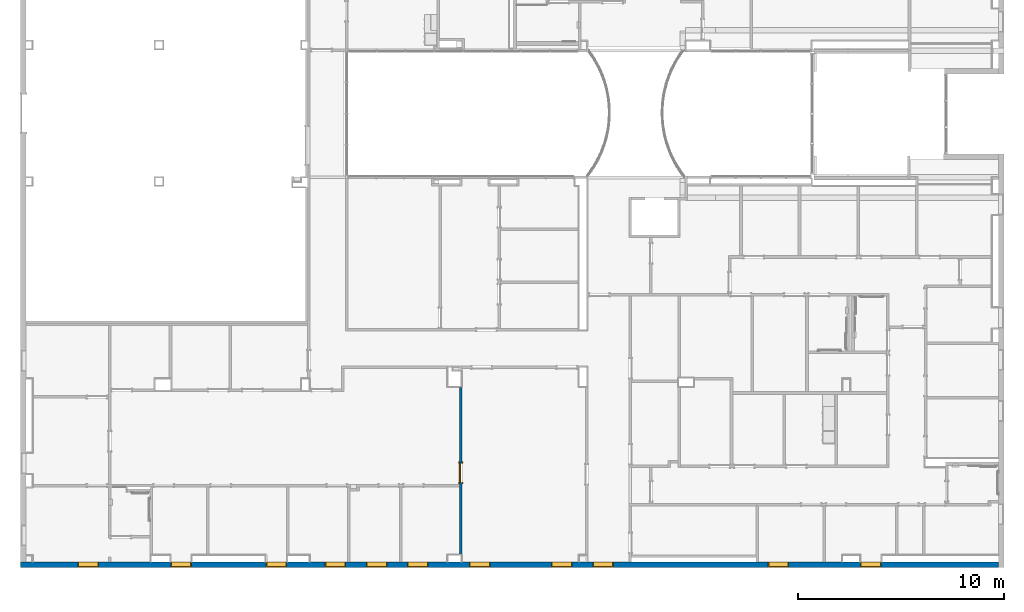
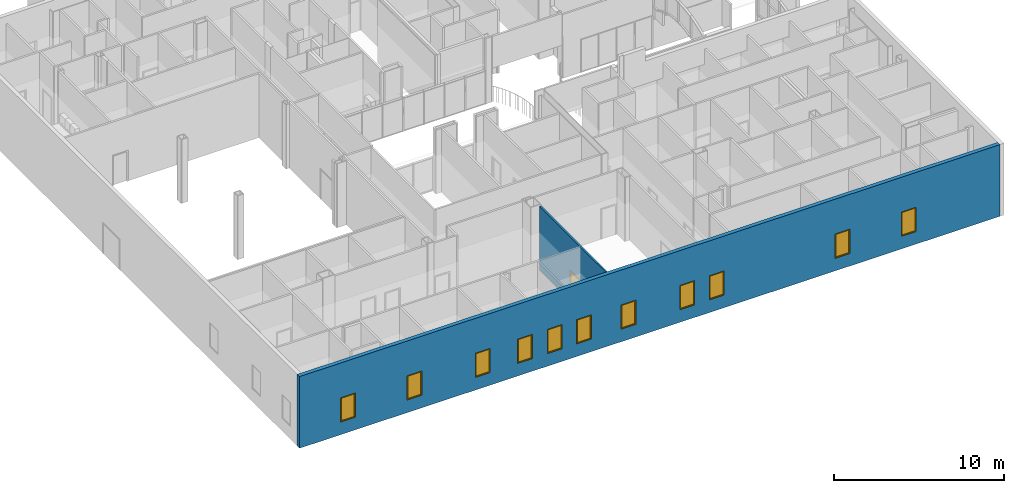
# One storey, part 8 of 47: 11 windows, 2 walls, 1 door, 12 openings.
"""IFC2X3 building model written with IfcOpenShell, lengths in metres."""

from ifc_helpers import new_model, entity, si_unit, converted_unit, frame, frame_2d, origin, origin_2d_with_axis, place, context, project, spatial, polyline, rectangle, outline, extrude, source, transform, mapped, material, layer, layer_set, layer_usage, type_object, type_shapes, element, fill, save


model = new_model("IFC2X3")

# Units and contexts
model_context = context("Model", 3, precision=1e-09, world=origin())
plan_context = context("Plan", 3, precision=1e-09, world=origin())
ifc_project = project(units=[si_unit("LENGTHUNIT", "METRE"), si_unit("AREAUNIT", "SQUARE_METRE"), si_unit("VOLUMEUNIT", "CUBIC_METRE"), converted_unit("PLANEANGLEUNIT", "DEGREE", entity("IfcRatioMeasure", 0.01745329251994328), si_unit("PLANEANGLEUNIT", "RADIAN"), dimensions=[0, 0, 0, 0, 0, 0, 0]), si_unit("TIMEUNIT", "SECOND")], contexts=[model_context, plan_context])

# Site, building, storey
site_placement = place(None, origin())
site = spatial("IfcSite", under=ifc_project, at=site_placement, Name="Default", CompositionType="ELEMENT")
building_placement = place(site_placement, origin())
building = spatial("IfcBuilding", under=site, at=building_placement, CompositionType="ELEMENT")
storey_placement = place(building_placement, frame((0.0, 0.0, 4.570000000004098)))
storey = spatial("IfcBuildingStorey", under=building, at=storey_placement, Name="Second Floor", CompositionType="ELEMENT", Elevation=4.570000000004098)

# Wall, openings, windows
ifc_material_1 = material(Name="Insulation - Insulated Panel")
ifc_layer_1 = layer(ifc_material_1, 0.042)
ifc_material_2 = material(Name="Metal - Firring")
ifc_layer_2 = layer(ifc_material_2, 0.038)
ifc_material_3 = material(Name="Wood - Sheathing - plywood")
ifc_layer_3 = layer(ifc_material_3, 0.019)
ifc_material_4 = material(Name="Metal - Stud Layer")
ifc_layer_4 = layer(ifc_material_4, 0.152)
ifc_material_5 = material(Name="Plasterboard")
ifc_layer_5 = layer(ifc_material_5, 0.016)
ifc_layer_set_1 = layer_set([ifc_layer_1, ifc_layer_2, ifc_layer_3, ifc_layer_4, ifc_layer_5], Name="Basic Wall:Exterior - Insul Panel on Mtl. Stud")
ifc_layer_usage_1 = layer_usage(ifc_layer_set_1, "AXIS2", "NEGATIVE", 0.1335)
wall_1_placement = place(storey_placement, frame((0.1129999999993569, 9.793499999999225, 0.0), z_axis=(0.0, 0.0, 1.0), x_axis=(-1.0, 0.0, 0.0)))
wall_1 = element("IfcWallStandardCase", 1, at=wall_1_placement, inside=storey, material=ifc_layer_usage_1, Name="Basic Wall:Exterior - Insul Panel on Mtl. Stud", ObjectType="Basic Wall:Exterior - Insul Panel on Mtl. Stud", context=model_context, shape_type="SweptSolid", body=[
    extrude(rectangle(XDim=47.493, YDim=0.2669999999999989, at=frame_2d((23.7465, 0.0), x_axis=(-1.0, 0.0))), origin(), (0.0, 0.0, 1.0), 5.136999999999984),
])
opening_1_placement = place(wall_1_placement, frame((5.698003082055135, -0.1335000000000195, 0.905)))
opening_1 = element("IfcOpeningElement", 2, at=opening_1_placement, cuts=wall_1, Name="M_Fixed:1735 x 1000mm:1735 x 1000mm:1", ObjectType="Opening", context=model_context, shape_type="SweptSolid", body=[
    extrude(rectangle(XDim=1.734999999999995, YDim=0.9999999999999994, at=frame_2d((0.8674999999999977, 0.5000000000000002), x_axis=(1.0, 0.0))), frame((0.0, 0.0, 0.0), z_axis=(0.0, 1.0, 0.0), x_axis=(0.0, 0.0, 1.0)), (0.0, 0.0, 1.0), 0.267),
])
opening_2_placement = place(wall_1_placement, frame((10.18900016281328, -0.1335000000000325, 0.905)))
opening_2 = element("IfcOpeningElement", 3, at=opening_2_placement, cuts=wall_1, Name="M_Fixed:1735 x 1000mm:1735 x 1000mm:1", ObjectType="Opening", context=model_context, shape_type="SweptSolid", body=[
    extrude(rectangle(XDim=1.734999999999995, YDim=0.9999999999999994, at=frame_2d((0.8674999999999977, 0.5000000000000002), x_axis=(1.0, 0.0))), frame((0.0, 0.0, 0.0), z_axis=(0.0, 1.0, 0.0), x_axis=(0.0, 0.0, 1.0)), (0.0, 0.0, 1.0), 0.267),
])
opening_3_placement = place(wall_1_placement, frame((18.70299999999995, -0.1335000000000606, 0.905)))
opening_3 = element("IfcOpeningElement", 4, at=opening_3_placement, cuts=wall_1, Name="M_Fixed:1735 x 1000mm:1735 x 1000mm:1", ObjectType="Opening", context=model_context, shape_type="SweptSolid", body=[
    extrude(rectangle(XDim=1.734999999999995, YDim=0.9999999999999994, at=frame_2d((0.8674999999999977, 0.5000000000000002), x_axis=(1.0, 0.0))), frame((0.0, 0.0, 0.0), z_axis=(0.0, 1.0, 0.0), x_axis=(0.0, 0.0, 1.0)), (0.0, 0.0, 1.0), 0.267),
])
opening_4_placement = place(wall_1_placement, frame((20.70699999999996, -0.1335000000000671, 0.905)))
opening_4 = element("IfcOpeningElement", 5, at=opening_4_placement, cuts=wall_1, Name="M_Fixed:1735 x 1000mm:1735 x 1000mm:1", ObjectType="Opening", context=model_context, shape_type="SweptSolid", body=[
    extrude(rectangle(XDim=1.734999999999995, YDim=0.9999999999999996, at=frame_2d((0.8674999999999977, 0.4999999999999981), x_axis=(1.0, 0.0))), frame((0.0, 0.0, 0.0), z_axis=(0.0, 1.0, 0.0), x_axis=(0.0, 0.0, 1.0)), (0.0, 0.0, 1.0), 0.267),
])
opening_5_placement = place(wall_1_placement, frame((24.69299999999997, -0.1335000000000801, 0.905)))
opening_5 = element("IfcOpeningElement", 6, at=opening_5_placement, cuts=wall_1, Name="M_Fixed:1735 x 1000mm:1735 x 1000mm:1", ObjectType="Opening", context=model_context, shape_type="SweptSolid", body=[
    extrude(rectangle(XDim=1.734999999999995, YDim=0.9999999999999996, at=frame_2d((0.8674999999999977, 0.4999999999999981), x_axis=(1.0, 0.0))), frame((0.0, 0.0, 0.0), z_axis=(0.0, 1.0, 0.0), x_axis=(0.0, 0.0, 1.0)), (0.0, 0.0, 1.0), 0.267),
])
opening_6_placement = place(wall_1_placement, frame((27.70799999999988, -0.133500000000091, 0.905)))
opening_6 = element("IfcOpeningElement", 7, at=opening_6_placement, cuts=wall_1, Name="M_Fixed:1735 x 1000mm:1735 x 1000mm:1", ObjectType="Opening", context=model_context, shape_type="SweptSolid", body=[
    extrude(rectangle(XDim=1.734999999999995, YDim=0.9999999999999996, at=frame_2d((0.8674999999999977, 0.4999999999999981), x_axis=(1.0, 0.0))), frame((0.0, 0.0, 0.0), z_axis=(0.0, 1.0, 0.0), x_axis=(0.0, 0.0, 1.0)), (0.0, 0.0, 1.0), 0.267),
])
opening_7_placement = place(wall_1_placement, frame((29.69199999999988, -0.1335000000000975, 0.905)))
opening_7 = element("IfcOpeningElement", 8, at=opening_7_placement, cuts=wall_1, Name="M_Fixed:1735 x 1000mm:1735 x 1000mm:1", ObjectType="Opening", context=model_context, shape_type="SweptSolid", body=[
    extrude(rectangle(XDim=1.734999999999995, YDim=0.9999999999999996, at=frame_2d((0.8674999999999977, 0.4999999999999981), x_axis=(1.0, 0.0))), frame((0.0, 0.0, 0.0), z_axis=(0.0, 1.0, 0.0), x_axis=(0.0, 0.0, 1.0)), (0.0, 0.0, 1.0), 0.267),
])
opening_8_placement = place(wall_1_placement, frame((31.70199999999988, -0.133500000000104, 0.905)))
opening_8 = element("IfcOpeningElement", 9, at=opening_8_placement, cuts=wall_1, Name="M_Fixed:1735 x 1000mm:1735 x 1000mm:1", ObjectType="Opening", context=model_context, shape_type="SweptSolid", body=[
    extrude(rectangle(XDim=1.734999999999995, YDim=0.9999999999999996, at=frame_2d((0.8674999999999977, 0.4999999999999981), x_axis=(1.0, 0.0))), frame((0.0, 0.0, 0.0), z_axis=(0.0, 1.0, 0.0), x_axis=(0.0, 0.0, 1.0)), (0.0, 0.0, 1.0), 0.267),
])
opening_9_placement = place(wall_1_placement, frame((34.56704823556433, -0.1335000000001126, 0.905)))
opening_9 = element("IfcOpeningElement", 10, at=opening_9_placement, cuts=wall_1, Name="M_Fixed:1735 x 1000mm:1735 x 1000mm:1", ObjectType="Opening", context=model_context, shape_type="SweptSolid", body=[
    extrude(rectangle(XDim=1.734999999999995, YDim=0.9999999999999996, at=frame_2d((0.8674999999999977, 0.4999999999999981), x_axis=(1.0, 0.0))), frame((0.0, 0.0, 0.0), z_axis=(0.0, 1.0, 0.0), x_axis=(0.0, 0.0, 1.0)), (0.0, 0.0, 1.0), 0.267),
])
opening_10_placement = place(wall_1_placement, frame((39.19630308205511, -0.1335000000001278, 0.905)))
opening_10 = element("IfcOpeningElement", 11, at=opening_10_placement, cuts=wall_1, Name="M_Fixed:1735 x 1000mm:1735 x 1000mm:1", ObjectType="Opening", context=model_context, shape_type="SweptSolid", body=[
    extrude(rectangle(XDim=1.734999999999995, YDim=0.9999999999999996, at=frame_2d((0.8674999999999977, 0.4999999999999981), x_axis=(1.0, 0.0))), frame((0.0, 0.0, 0.0), z_axis=(0.0, 1.0, 0.0), x_axis=(0.0, 0.0, 1.0)), (0.0, 0.0, 1.0), 0.267),
])
opening_11_placement = place(wall_1_placement, frame((43.70299999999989, -0.133500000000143, 0.905)))
opening_11 = element("IfcOpeningElement", 12, at=opening_11_placement, cuts=wall_1, Name="M_Fixed:1735 x 1000mm:1735 x 1000mm:1", ObjectType="Opening", context=model_context, shape_type="SweptSolid", body=[
    extrude(rectangle(XDim=1.734999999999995, YDim=0.9999999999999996, at=frame_2d((0.8674999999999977, 0.4999999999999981), x_axis=(1.0, 0.0))), frame((0.0, 0.0, 0.0), z_axis=(0.0, 1.0, 0.0), x_axis=(0.0, 0.0, 1.0)), (0.0, 0.0, 1.0), 0.267),
])
window_style = type_object("IfcWindowStyle", Name="1735 x 1000mm", ConstructionType="NOTDEFINED", OperationType="NOTDEFINED", ParameterTakesPrecedence=False, Sizeable=False)
shared_shape_1 = source(origin(), model_context, "Body", "SweptSolid", [
    extrude(rectangle(XDim=0.012, YDim=0.873999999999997, at=origin_2d_with_axis()), frame((0.5000000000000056, 0.2259999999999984, 0.06299999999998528), z_axis=(0.0, 0.0, 1.0), x_axis=(0.0, -1.0, 0.0)), (0.0, 0.0, 1.0), 1.609000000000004),
    extrude(outline(polyline([(-0.4809999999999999, -0.8485000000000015), (0.4809999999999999, -0.8485000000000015), (0.4809999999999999, 0.8485000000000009), (-0.4809999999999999, 0.8485000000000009), (-0.4809999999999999, -0.8485000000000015)]), holes=[polyline([(-0.4369999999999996, -0.8045000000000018), (-0.4369999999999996, 0.8045000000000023), (0.4369999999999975, 0.8045000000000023), (0.4369999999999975, -0.8045000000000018), (-0.4369999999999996, -0.8045000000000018)])]), frame((0.5000000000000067, 0.203999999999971, 0.8674999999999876), z_axis=(0.0, 1.0, 0.0), x_axis=(1.0, 0.0, 0.0)), (0.0, 0.0, 1.0), 0.04400000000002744),
    extrude(outline(polyline([(-0.4999999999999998, -0.8674999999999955), (0.4999999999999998, -0.8674999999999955), (0.4999999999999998, 0.8674999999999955), (-0.4999999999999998, 0.8674999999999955), (-0.4999999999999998, -0.8674999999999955)]), holes=[polyline([(-0.4810000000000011, -0.8484999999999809), (-0.4810000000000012, 0.8485000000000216), (0.4809999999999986, 0.8485000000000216), (0.4809999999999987, -0.8484999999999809), (-0.4810000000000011, -0.8484999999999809)])]), frame((0.500000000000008, 0.203999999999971, 0.8675000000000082), z_axis=(0.0, 1.0, 0.0), x_axis=(1.0, 0.0, 0.0)), (0.0, 0.0, 1.0), 0.06300000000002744),
    extrude(outline(polyline([(-0.5000000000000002, -0.867499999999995), (0.5000000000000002, -0.867499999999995), (0.5000000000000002, 0.867499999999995), (-0.5000000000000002, 0.867499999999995), (-0.5000000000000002, -0.867499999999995)]), holes=[polyline([(-0.4679999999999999, -0.8354999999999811), (-0.4679999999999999, 0.8355000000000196), (0.4680000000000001, 0.8355000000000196), (0.4680000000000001, -0.8354999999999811), (-0.4679999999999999, -0.8354999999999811)])]), frame((0.5000000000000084, 0.0, 0.8675000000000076), z_axis=(0.0, 1.0, 0.0), x_axis=(1.0, 0.0, 0.0)), (0.0, 0.0, 1.0), 0.2039999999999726),
])
type_shapes(window_style, [shared_shape_1])
window_1_placement = place(opening_1_placement, origin())
window_1 = element("IfcWindow", 13, at=window_1_placement, inside=storey, type_object=window_style, Name="M_Fixed:1735 x 1000mm:1735 x 1000mm", ObjectType="1735 x 1000mm", OverallHeight=1.734999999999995, OverallWidth=1.0, context=model_context, shape_type="MappedRepresentation", body=[
    mapped(shared_shape_1, transform((0.0, 0.0, 0.0), scale=1.0)),
])
fill(opening_1, window_1)
window_2_placement = place(opening_2_placement, origin())
window_2 = element("IfcWindow", 14, at=window_2_placement, inside=storey, type_object=window_style, Name="M_Fixed:1735 x 1000mm:1735 x 1000mm", ObjectType="1735 x 1000mm", OverallHeight=1.734999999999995, OverallWidth=1.0, context=model_context, shape_type="MappedRepresentation", body=[
    mapped(shared_shape_1, transform((0.0, 0.0, 0.0), scale=1.0)),
])
fill(opening_2, window_2)
window_3_placement = place(opening_3_placement, origin())
window_3 = element("IfcWindow", 15, at=window_3_placement, inside=storey, type_object=window_style, Name="M_Fixed:1735 x 1000mm:1735 x 1000mm", ObjectType="1735 x 1000mm", OverallHeight=1.734999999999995, OverallWidth=1.0, context=model_context, shape_type="MappedRepresentation", body=[
    mapped(shared_shape_1, transform((0.0, 0.0, 0.0), scale=1.0)),
])
fill(opening_3, window_3)
window_4_placement = place(opening_4_placement, origin())
window_4 = element("IfcWindow", 16, at=window_4_placement, inside=storey, type_object=window_style, Name="M_Fixed:1735 x 1000mm:1735 x 1000mm", ObjectType="1735 x 1000mm", OverallHeight=1.734999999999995, OverallWidth=0.9999999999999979, context=model_context, shape_type="MappedRepresentation", body=[
    mapped(shared_shape_1, transform((0.0, 0.0, 0.0), scale=1.0)),
])
fill(opening_4, window_4)
window_5_placement = place(opening_5_placement, origin())
window_5 = element("IfcWindow", 17, at=window_5_placement, inside=storey, type_object=window_style, Name="M_Fixed:1735 x 1000mm:1735 x 1000mm", ObjectType="1735 x 1000mm", OverallHeight=1.734999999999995, OverallWidth=0.9999999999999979, context=model_context, shape_type="MappedRepresentation", body=[
    mapped(shared_shape_1, transform((0.0, 0.0, 0.0), scale=1.0)),
])
fill(opening_5, window_5)
window_6_placement = place(opening_6_placement, origin())
window_6 = element("IfcWindow", 18, at=window_6_placement, inside=storey, type_object=window_style, Name="M_Fixed:1735 x 1000mm:1735 x 1000mm", ObjectType="1735 x 1000mm", OverallHeight=1.734999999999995, OverallWidth=0.9999999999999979, context=model_context, shape_type="MappedRepresentation", body=[
    mapped(shared_shape_1, transform((0.0, 0.0, 0.0), scale=1.0)),
])
fill(opening_6, window_6)
window_7_placement = place(opening_7_placement, origin())
window_7 = element("IfcWindow", 19, at=window_7_placement, inside=storey, type_object=window_style, Name="M_Fixed:1735 x 1000mm:1735 x 1000mm", ObjectType="1735 x 1000mm", OverallHeight=1.734999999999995, OverallWidth=0.9999999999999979, context=model_context, shape_type="MappedRepresentation", body=[
    mapped(shared_shape_1, transform((0.0, 0.0, 0.0), scale=1.0)),
])
fill(opening_7, window_7)
window_8_placement = place(opening_8_placement, origin())
window_8 = element("IfcWindow", 20, at=window_8_placement, inside=storey, type_object=window_style, Name="M_Fixed:1735 x 1000mm:1735 x 1000mm", ObjectType="1735 x 1000mm", OverallHeight=1.734999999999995, OverallWidth=0.9999999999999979, context=model_context, shape_type="MappedRepresentation", body=[
    mapped(shared_shape_1, transform((0.0, 0.0, 0.0), scale=1.0)),
])
fill(opening_8, window_8)
window_9_placement = place(opening_9_placement, origin())
window_9 = element("IfcWindow", 21, at=window_9_placement, inside=storey, type_object=window_style, Name="M_Fixed:1735 x 1000mm:1735 x 1000mm", ObjectType="1735 x 1000mm", OverallHeight=1.734999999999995, OverallWidth=0.9999999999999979, context=model_context, shape_type="MappedRepresentation", body=[
    mapped(shared_shape_1, transform((0.0, 0.0, 0.0), scale=1.0)),
])
fill(opening_9, window_9)
window_10_placement = place(opening_10_placement, origin())
window_10 = element("IfcWindow", 22, at=window_10_placement, inside=storey, type_object=window_style, Name="M_Fixed:1735 x 1000mm:1735 x 1000mm", ObjectType="1735 x 1000mm", OverallHeight=1.734999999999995, OverallWidth=0.9999999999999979, context=model_context, shape_type="MappedRepresentation", body=[
    mapped(shared_shape_1, transform((0.0, 0.0, 0.0), scale=1.0)),
])
fill(opening_10, window_10)
window_11_placement = place(opening_11_placement, origin())
window_11 = element("IfcWindow", 23, at=window_11_placement, inside=storey, type_object=window_style, Name="M_Fixed:1735 x 1000mm:1735 x 1000mm", ObjectType="1735 x 1000mm", OverallHeight=1.734999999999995, OverallWidth=0.9999999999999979, context=model_context, shape_type="MappedRepresentation", body=[
    mapped(shared_shape_1, transform((0.0, 0.0, 0.0), scale=1.0)),
])
fill(opening_11, window_11)

# Wall, opening, door
ifc_layer_6 = layer(ifc_material_5, 0.016)
ifc_layer_7 = layer(ifc_material_4, 0.092)
ifc_layer_8 = layer(ifc_material_5, 0.016)
ifc_layer_set_2 = layer_set([ifc_layer_6, ifc_layer_7, ifc_layer_8], Name="Basic Wall:Interior - Partition (92mm Stud)")
ifc_layer_usage_2 = layer_usage(ifc_layer_set_2, "AXIS2", "NEGATIVE", 0.062)
wall_2_placement = place(storey_placement, frame((-26.0020000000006, 18.41443871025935, 0.0), z_axis=(0.0, 0.0, 1.0), x_axis=(0.0, -1.0, 0.0)))
wall_2 = element("IfcWallStandardCase", 24, at=wall_2_placement, inside=storey, material=ifc_layer_usage_2, Name="Basic Wall:Interior - Partition (92mm Stud)", ObjectType="Basic Wall:Interior - Partition (92mm Stud)", context=model_context, shape_type="SweptSolid", body=[
    extrude(rectangle(XDim=8.107438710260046, YDim=0.1239999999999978, at=frame_2d((4.053719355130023, 0.0), x_axis=(-1.0, 0.0))), origin(), (0.0, 0.0, 1.0), 4.577999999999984),
])
opening_12_placement = place(wall_2_placement, frame((4.6100000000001, 0.06199999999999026, 0.0)))
opening_12 = element("IfcOpeningElement", 25, at=opening_12_placement, cuts=wall_2, Name="M_Single-Flush:0915 x 2134mm:0915 x 2134mm:1", ObjectType="Opening", context=model_context, shape_type="SweptSolid", body=[
    extrude(rectangle(XDim=0.9149999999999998, YDim=2.134, at=frame_2d((1.067, 0.4574999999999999), x_axis=(0.0, -1.0))), frame((0.0, 0.0, 0.0), z_axis=(0.0, -1.0, 0.0), x_axis=(0.0, 0.0, 1.0)), (0.0, 0.0, 1.0), 0.124),
])
door_style = type_object("IfcDoorStyle", Name="0915 x 2134mm", ConstructionType="NOTDEFINED", OperationType="SINGLE_SWING_LEFT", ParameterTakesPrecedence=False, Sizeable=False)
shared_shape_2 = source(origin(), model_context, "Body", "SweptSolid", [
    extrude(outline(polyline([(-0.5335, -1.123999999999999), (0.5334999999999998, -1.123999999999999), (0.5334999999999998, 1.086), (0.4574999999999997, 1.086), (0.4574999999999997, -1.048000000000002), (-0.4574999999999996, -1.048000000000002), (-0.4574999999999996, 1.086), (-0.5335, 1.086), (-0.5335, -1.123999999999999)])), frame((0.4575000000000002, 0.1489999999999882, 1.086), z_axis=(0.0, -1.0, 0.0), x_axis=(-1.0, 0.0, 0.0)), (0.0, 0.0, 1.0), 0.02499999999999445),
    extrude(outline(polyline([(-1.123999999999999, -0.5334999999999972), (1.085999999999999, -0.5334999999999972), (1.085999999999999, -0.4575000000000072), (-1.048, -0.4575000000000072), (-1.048, 0.4575000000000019), (1.085999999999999, 0.4575000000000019), (1.085999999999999, 0.5335000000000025), (-1.123999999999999, 0.5335000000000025), (-1.123999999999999, -0.5334999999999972)])), frame((0.4574999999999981, 0.0, 1.085999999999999), z_axis=(0.0, -1.0, 0.0), x_axis=(0.0, 0.0, -1.0)), (0.0, 0.0, 1.0), 0.02500000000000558),
    extrude(rectangle(XDim=0.9149999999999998, YDim=0.051, at=origin_2d_with_axis()), frame((0.4575000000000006, 0.09849999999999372, 0.0)), (0.0, 0.0, 1.0), 2.133999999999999),
])
type_shapes(door_style, [shared_shape_2])
door_placement = place(opening_12_placement, frame((0.0, 0.0, 0.0), z_axis=(0.0, 0.0, 1.0), x_axis=(-1.0, 0.0, 0.0)))
door = element("IfcDoor", 26, at=door_placement, inside=storey, type_object=door_style, Name="M_Single-Flush:0915 x 2134mm:0915 x 2134mm", ObjectType="0915 x 2134mm", OverallHeight=2.134, OverallWidth=0.9149999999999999, context=model_context, shape_type="MappedRepresentation", body=[
    mapped(shared_shape_2, transform((0.0, 0.0, 0.0), scale=1.0)),
])
fill(opening_12, door)

save(model, "model.ifc")
